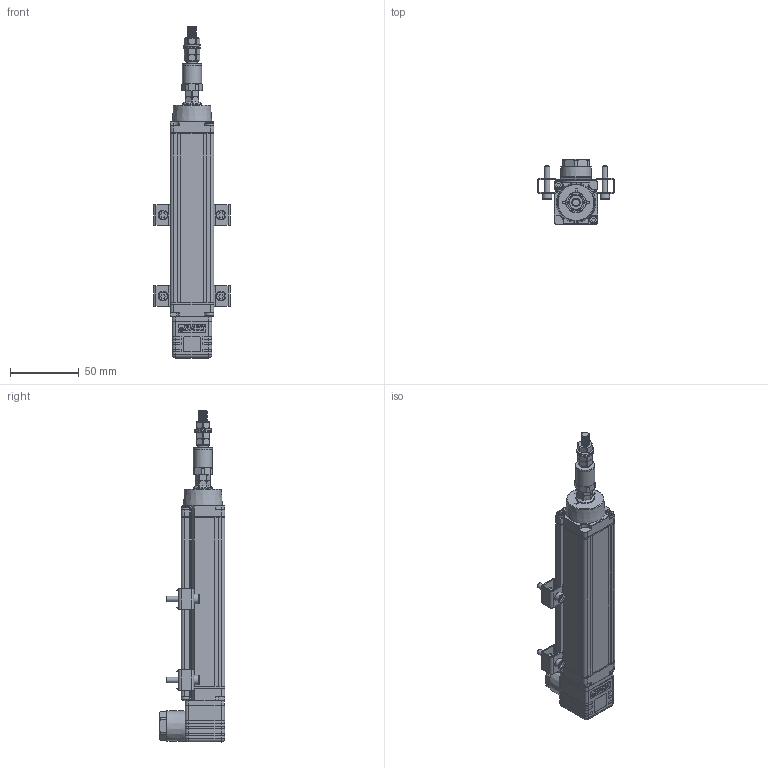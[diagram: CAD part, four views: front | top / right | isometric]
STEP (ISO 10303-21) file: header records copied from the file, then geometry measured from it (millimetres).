
FILE_DESCRIPTION( ('This file contains a STEP AP42 implementation' ,'as created by ZW3D STEP Interface translator.' ,'') ,'2;1' );
FILE_NAME( 'KTC1-75.stp' ,'25 4 9.162851', (''), ('ZWCAD Software Co.'), 'Version 1.0', 'ZW3D to STEP translator', '' );
FILE_SCHEMA(('AUTOMOTIVE_DESIGN { 1 0 10303 214 1 1 1 1 }'));
Length unit declared in the file: millimetre
Products named in the file (1): 0
Bounding box: 56 x 47.64 x 241.59 mm (x, y, z)
Volume: 167165.9 mm3; surface area: 60943.9 mm2
Topology: 35 solids, 35 shells, 1510 faces, 4086 edges, 2697 vertices
Faces by surface type: plane 836, cylinder 522, cone 61, torus 35, bspline 32, sphere 24
Full cylindrical faces by diameter (mm): 0.9 x4, 2.4 x1, 2.5 x6, 2.525 x2, 2.76 x1, 3 x6, 3.5 x4, 4 x5, 4.5 x2, 4.8 x1, 4.9 x31, 5 x34, 5.9 x37, 6 x34, 6.951 x1, 7 x4, 7.5 x1, 7.986 x1, 10 x1, 12 x1, 14 x2, 17.018 x6, 17.3 x6, 18.529 x3, 19 x6
Entity records: 69609 total; most frequent: CARTESIAN_POINT 30362, ORIENTED_EDGE 8172, DIRECTION 7349, EDGE_CURVE 4086, VERTEX_POINT 2697, VECTOR 2495, LINE 2495, AXIS2_PLACEMENT_3D 2427
